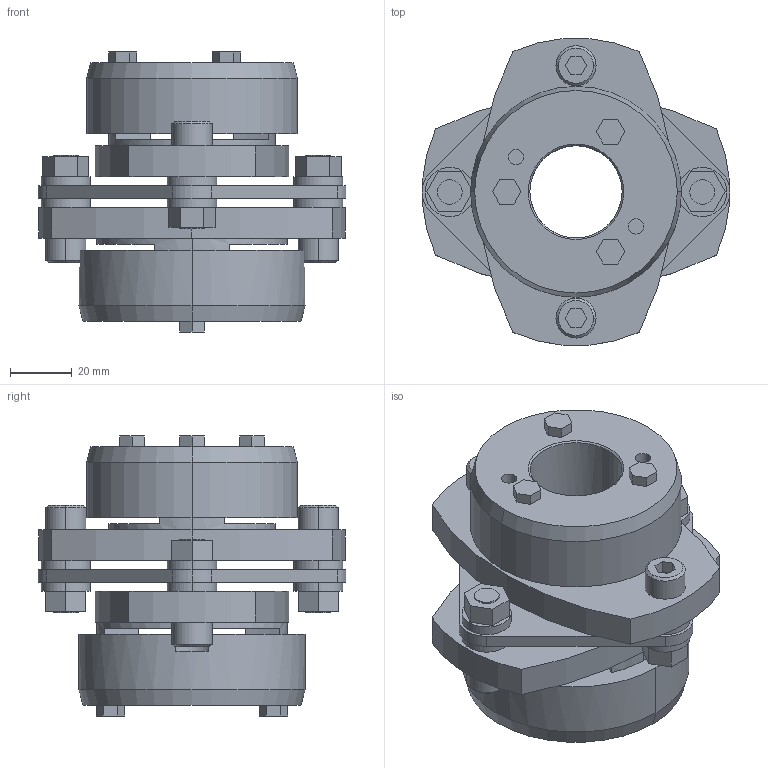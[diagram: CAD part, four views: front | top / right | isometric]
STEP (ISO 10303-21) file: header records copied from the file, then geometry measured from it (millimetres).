
FILE_DESCRIPTION((''),'2;1');
FILE_NAME('LCS-100T7-30×38.stp','2011-09-09T08:04:51',(''),(''),'AutoCAD STEP 2000i','AutoCAD 2000i',', , ');
FILE_SCHEMA(('CONFIG_CONTROL_DESIGN'));
Length unit declared in the file: millimetre
Products named in the file (11): LCS-100T7-30×38; 忣兜1; LC100T7-T038; LC100T7-T035; LC100T7-T030-1; LC100T7-T030; LC100T7-T025-1; LC100T7-T025; LC100T7-T022-1; LC100T7-T022; LCS100-ITA
Assembly tree (10 placements, depth 2):
  LCS-100T7-30×38
    忣兜1
    LC100T7-T038
    LC100T7-T035
    LC100T7-T030-1
    LC100T7-T030
    LC100T7-T025-1
    LC100T7-T025
    LC100T7-T022-1
    LC100T7-T022
    LCS100-ITA
Bounding box: 100 x 99.93 x 91 mm (x, y, z)
Volume: 265801.1 mm3; surface area: 65449.8 mm2
Topology: 1 solids, 1 shells, 229 faces, 562 edges, 368 vertices
Faces by surface type: plane 127, cylinder 82, cone 20
Entity records: 7051 total; most frequent: DIRECTION 1246, CARTESIAN_POINT 1170, ORIENTED_EDGE 1124, EDGE_CURVE 562, AXIS2_PLACEMENT_3D 444, VERTEX_POINT 368, VECTOR 358, LINE 358
